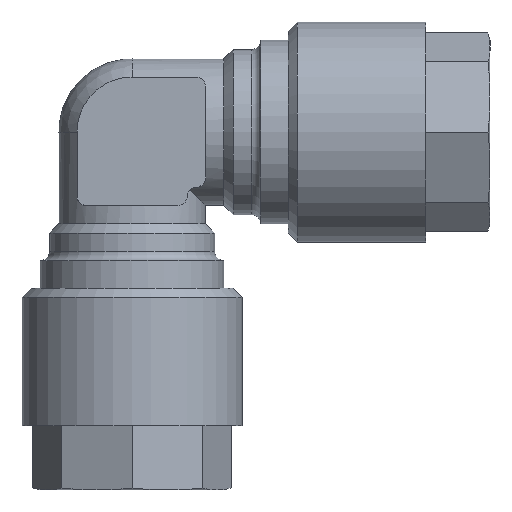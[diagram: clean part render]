
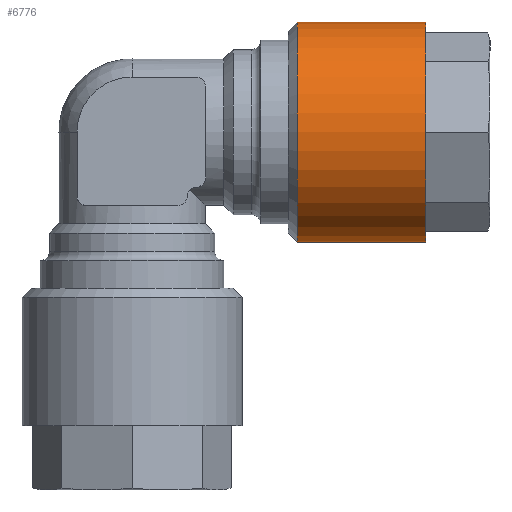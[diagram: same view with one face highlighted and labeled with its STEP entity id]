
A CAD part, front view. The second image highlights one B-rep face of the part: STEP entity #6776.
In plain terms, the highlighted cylindrical face has radius 6 mm (diameter 12 mm), a full revolution.
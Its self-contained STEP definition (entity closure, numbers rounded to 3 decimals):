
#2687=ORIENTED_EDGE('',*,*,#3191,.F.);
#2688=ORIENTED_EDGE('',*,*,#3192,.T.);
#2868=CIRCLE('',#6584,6.);
#2869=CIRCLE('',#6586,6.);
#3000=VERTEX_POINT('',#6279);
#3001=VERTEX_POINT('',#6282);
#3191=EDGE_CURVE('',#3000,#3000,#2868,.T.);
#3192=EDGE_CURVE('',#3001,#3001,#2869,.T.);
#3364=EDGE_LOOP('',(#2687));
#3365=EDGE_LOOP('',(#2688));
#3534=FACE_BOUND('',#3364,.T.);
#3535=FACE_BOUND('',#3365,.T.);
#3972=DIRECTION('',(0.,1.,0.));
#3973=DIRECTION('',(0.,0.,-6.));
#3974=DIRECTION('',(0.,1.,0.));
#3975=DIRECTION('',(1.,0.,0.));
#3976=DIRECTION('',(0.,1.,0.));
#3977=DIRECTION('',(0.,0.,6.));
#6279=CARTESIAN_POINT('',(0.,7.5,-6.));
#6280=CARTESIAN_POINT('',(0.,7.5,0.));
#6281=CARTESIAN_POINT('',(0.,0.5,0.));
#6282=CARTESIAN_POINT('',(0.,0.5,6.));
#6283=CARTESIAN_POINT('',(0.,0.5,0.));
#6584=AXIS2_PLACEMENT_3D('',#6280,#3972,#3973);
#6585=AXIS2_PLACEMENT_3D('',#6281,#3974,#3975);
#6586=AXIS2_PLACEMENT_3D('',#6283,#3976,#3977);
#6691=CYLINDRICAL_SURFACE('',#6585,6.);
#6776=ADVANCED_FACE('',(#3534,#3535),#6691,.T.);
